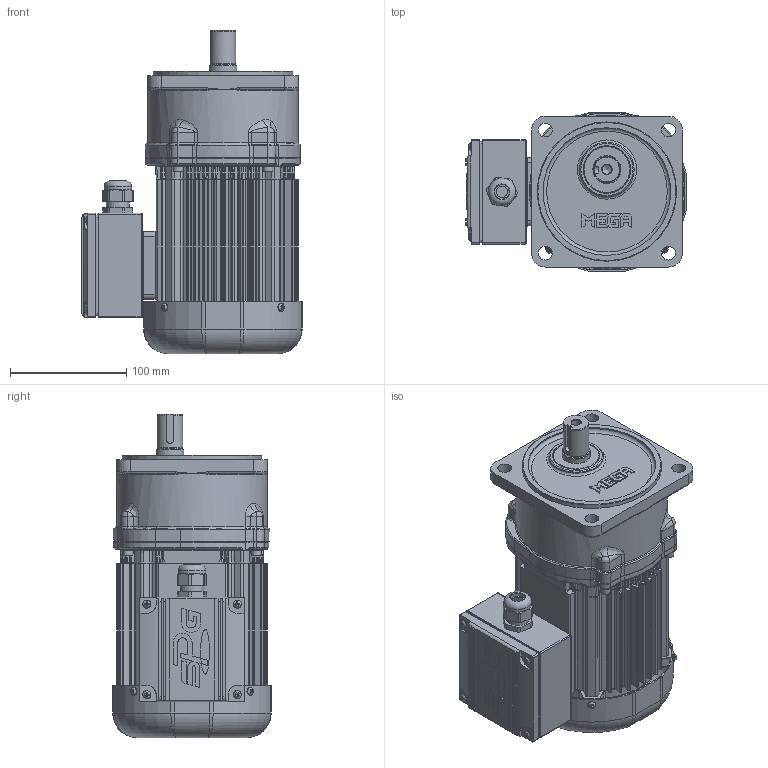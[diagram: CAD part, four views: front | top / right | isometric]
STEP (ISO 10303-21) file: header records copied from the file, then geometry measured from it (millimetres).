
FILE_DESCRIPTION(/* description */ (''),/* implementation_level */ '2;1');
FILE_NAME(/* name */ 'Z:\동력 3D 파일\PMK88_0.2kW_3D.stp',/* time_stamp */ '2021-11-18T15:46:42+09:00',/* author */ ('jaebok'),/* organization */ (''),/* preprocessor_version */ 'ST-DEVELOPER v18.1',/* originating_system */ 'Autodesk Inventor 2022',/* authorisation */ '');
FILE_SCHEMA (('AUTOMOTIVE_DESIGN { 1 0 10303 214 3 1 1 }'));
Products named in the file (1): 부품3
Bounding box: 189.7 x 136.4 x 278.5 mm (x, y, z)
Volume: 1193037.8 mm3; surface area: 448977 mm2
Topology: 1 solids, 29 shells, 3403 faces, 8534 edges, 5061 vertices
Faces by surface type: plane 1006, bspline 903, cylinder 887, torus 393, cone 152, sphere 62
Full cylindrical faces by diameter (mm): 2 x1, 3.242 x4, 3.25 x1, 3.5 x4, 3.6 x4, 4 x21, 4.2 x4, 5 x19, 5.5 x4, 6 x4, 7 x12, 8 x6, 8.5 x4, 10 x1, 11 x1, 12 x4, 12.5 x1, 14 x1, 15 x1, 19 x1, 20 x3, 21 x1, 21.6 x1, 21.96 x1, 22 x1, 23.6 x1, 24 x2, 25 x2, 26 x2, 27 x1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
Entity records: 137156 total; most frequent: CARTESIAN_POINT 58070, ORIENTED_EDGE 16608, DIRECTION 14623, EDGE_CURVE 8304, AXIS2_PLACEMENT_3D 5937, VERTEX_POINT 5061, EDGE_LOOP 3595, FACE_OUTER_BOUND 3403
